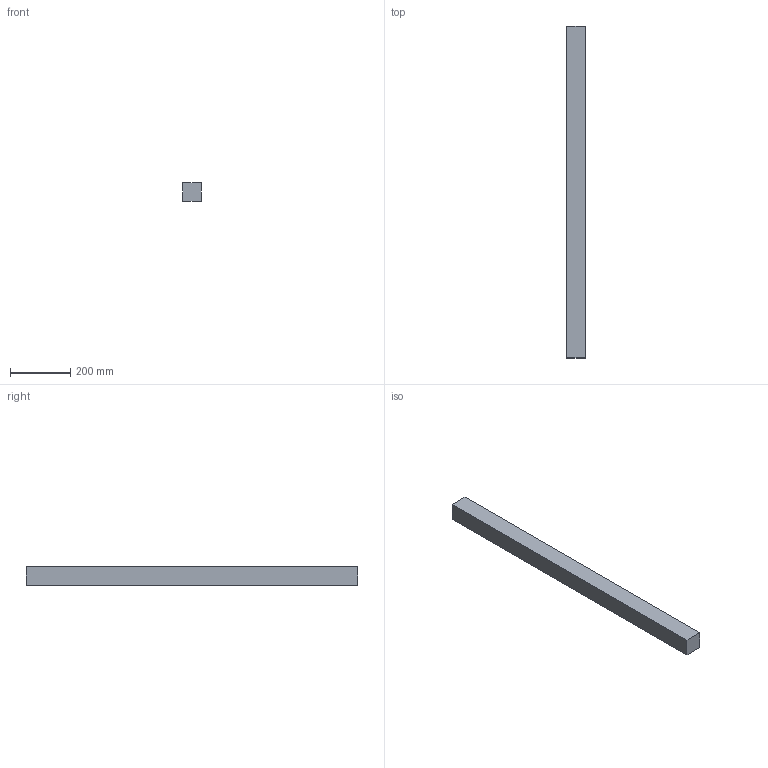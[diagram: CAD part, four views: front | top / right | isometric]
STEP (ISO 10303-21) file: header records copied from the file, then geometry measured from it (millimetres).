
FILE_DESCRIPTION(('Open CASCADE Model'),'2;1');
FILE_NAME('Open CASCADE Shape Model','2026-03-30T20:16:05',('Author'),( 'Open CASCADE'),'Open CASCADE STEP processor 7.8','Open CASCADE 7.8' ,'Unknown');
FILE_SCHEMA(('AUTOMOTIVE_DESIGN { 1 0 10303 214 1 1 1 1 }'));
Length unit declared in the file: millimetre
Products named in the file (1): Open CASCADE STEP translator 7.8 19
Bounding box: 60 x 1100 x 60 mm (x, y, z)
Volume: 3960000 mm3; surface area: 271200 mm2
Topology: 1 solids, 1 shells, 6 faces, 12 edges, 8 vertices
Faces by surface type: plane 6
Entity records: 322 total; most frequent: CARTESIAN_POINT 51, DIRECTION 50, LINE 36, VECTOR 36, ORIENTED_EDGE 24, PCURVE 24, DEFINITIONAL_REPRESENTATION 24, EDGE_CURVE 12
